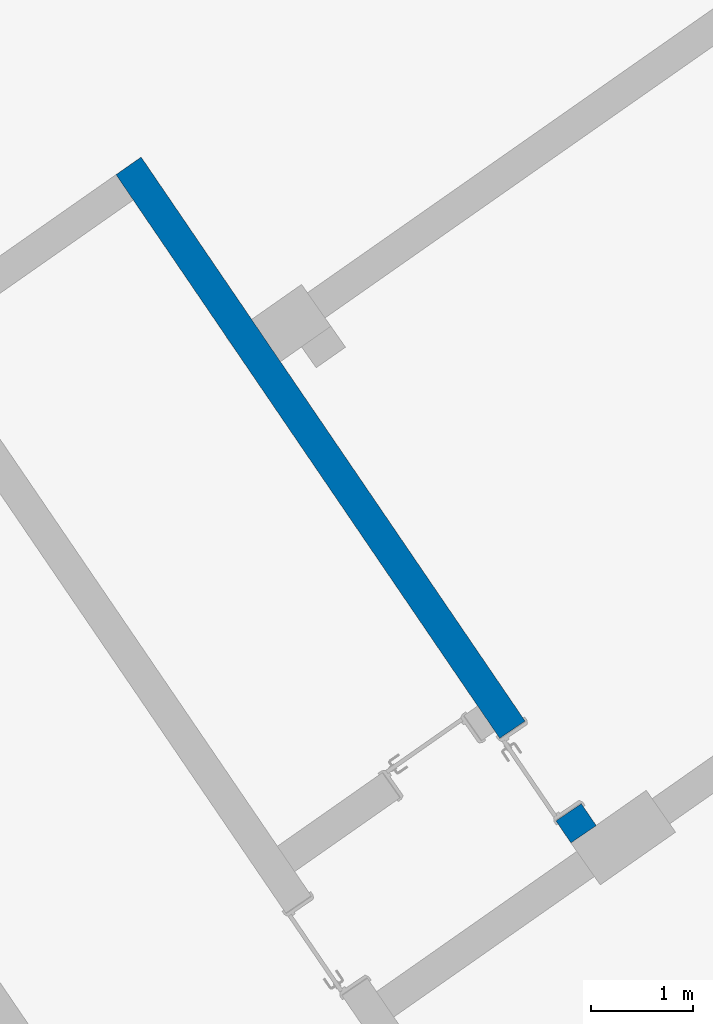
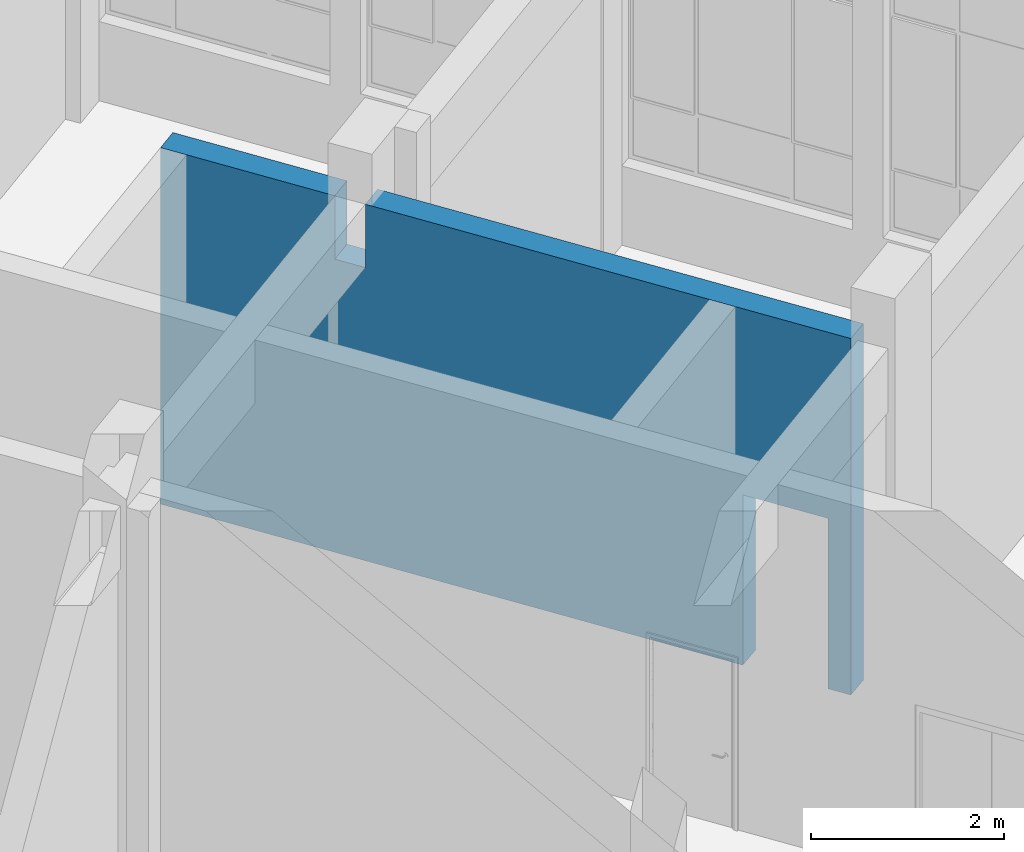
# One storey, part 77 of 157: 1 wall, 1 opening.
"""IFC2X3 building model written with IfcOpenShell, lengths in millimetres."""

from ifc_helpers import new_model, entity, si_unit, converted_unit, derived_unit, direction, frame, frame_2d, origin, place, context, subcontext, project, spatial, polyline, rectangle, outline, extrude, clip, bounded_halfspace, material, layer, layer_set, layer_usage, type_object, element, save


model = new_model("IFC2X3")

# Units and contexts
model_context = context("Model", 3, precision=0.01, world=origin(), true_north=direction((6.123031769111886e-17, 1.0)))
body_context = subcontext(model_context, "Body", "Model", "MODEL_VIEW")
ifc_project = project(units=[si_unit("LENGTHUNIT", "METRE", prefix="MILLI"), si_unit("AREAUNIT", "SQUARE_METRE"), si_unit("VOLUMEUNIT", "CUBIC_METRE"), converted_unit("PLANEANGLEUNIT", "DEGREE", entity("IfcRatioMeasure", 0.017453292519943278), si_unit("PLANEANGLEUNIT", "RADIAN"), dimensions=[0, 0, 0, 0, 0, 0, 0]), si_unit("MASSUNIT", "GRAM", prefix="KILO"), derived_unit("MASSDENSITYUNIT", [(si_unit("MASSUNIT", "GRAM", prefix="KILO"), 1), (si_unit("LENGTHUNIT", "METRE"), -3)]), derived_unit("MOMENTOFINERTIAUNIT", [(si_unit("LENGTHUNIT", "METRE"), 4)]), si_unit("TIMEUNIT", "SECOND"), si_unit("FREQUENCYUNIT", "HERTZ"), si_unit("THERMODYNAMICTEMPERATUREUNIT", "DEGREE_CELSIUS"), derived_unit("THERMALTRANSMITTANCEUNIT", [(si_unit("MASSUNIT", "GRAM", prefix="KILO"), 1), (si_unit("THERMODYNAMICTEMPERATUREUNIT", "KELVIN"), -1), (si_unit("TIMEUNIT", "SECOND"), -3)]), derived_unit("THERMALCONDUCTANCEUNIT", [(si_unit("MASSUNIT", "GRAM", prefix="KILO"), 1), (si_unit("LENGTHUNIT", "METRE"), 1), (si_unit("THERMODYNAMICTEMPERATUREUNIT", "KELVIN"), -1), (si_unit("TIMEUNIT", "SECOND"), -3)]), derived_unit("VOLUMETRICFLOWRATEUNIT", [(si_unit("LENGTHUNIT", "METRE"), 3), (si_unit("TIMEUNIT", "SECOND"), -1)]), derived_unit("MASSFLOWRATEUNIT", [(si_unit("MASSUNIT", "GRAM", prefix="KILO"), 1), (si_unit("TIMEUNIT", "SECOND"), -1)]), derived_unit("ROTATIONALFREQUENCYUNIT", [(si_unit("TIMEUNIT", "SECOND"), -1)]), si_unit("ELECTRICCURRENTUNIT", "AMPERE"), si_unit("ELECTRICVOLTAGEUNIT", "VOLT"), si_unit("POWERUNIT", "WATT"), converted_unit("FORCEUNIT", "KIP", entity("IfcRatioMeasure", 2.088543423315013e-05), si_unit("FORCEUNIT", "NEWTON"), dimensions=[1, 1, -2, 0, 0, 0, 0]), si_unit("ILLUMINANCEUNIT", "LUX"), si_unit("LUMINOUSFLUXUNIT", "LUMEN"), si_unit("LUMINOUSINTENSITYUNIT", "CANDELA"), derived_unit("USERDEFINED", [(si_unit("MASSUNIT", "GRAM", prefix="KILO"), -1), (si_unit("LENGTHUNIT", "METRE"), -2), (si_unit("TIMEUNIT", "SECOND"), 3), (si_unit("LUMINOUSFLUXUNIT", "LUMEN"), 1)]), derived_unit("USERDEFINED", [(si_unit("MASSUNIT", "GRAM", prefix="KILO"), 1), (si_unit("LENGTHUNIT", "METRE"), 3), (si_unit("TIMEUNIT", "SECOND"), -3), (si_unit("ELECTRICCURRENTUNIT", "AMPERE"), -2)]), derived_unit("USERDEFINED", [(si_unit("LENGTHUNIT", "METRE"), 2), (si_unit("TIMEUNIT", "SECOND"), -2)]), derived_unit("SOUNDPOWERUNIT", [(si_unit("MASSUNIT", "GRAM", prefix="KILO"), 1), (si_unit("LENGTHUNIT", "METRE"), 2), (si_unit("TIMEUNIT", "SECOND"), -3)]), derived_unit("SOUNDPRESSUREUNIT", [(si_unit("MASSUNIT", "GRAM", prefix="KILO"), 1), (si_unit("LENGTHUNIT", "METRE"), -1), (si_unit("TIMEUNIT", "SECOND"), -2)]), derived_unit("LINEARVELOCITYUNIT", [(si_unit("LENGTHUNIT", "METRE"), 1), (si_unit("TIMEUNIT", "SECOND"), -1)]), si_unit("PRESSUREUNIT", "PASCAL"), derived_unit("USERDEFINED", [(si_unit("LENGTHUNIT", "METRE"), -2), (si_unit("MASSUNIT", "GRAM", prefix="KILO"), 1), (si_unit("TIMEUNIT", "SECOND"), -2)]), derived_unit("LINEARFORCEUNIT", [(si_unit("MASSUNIT", "GRAM", prefix="KILO"), 1), (si_unit("LENGTHUNIT", "METRE"), 1), (si_unit("TIMEUNIT", "SECOND"), -2), (si_unit("LENGTHUNIT", "METRE"), -1)]), derived_unit("PLANARFORCEUNIT", [(si_unit("MASSUNIT", "GRAM", prefix="KILO"), 1), (si_unit("LENGTHUNIT", "METRE"), 1), (si_unit("TIMEUNIT", "SECOND"), -2), (si_unit("LENGTHUNIT", "METRE"), -2)]), derived_unit("SPECIFICHEATCAPACITYUNIT", [(si_unit("LENGTHUNIT", "METRE"), 2), (si_unit("TIMEUNIT", "SECOND"), -2), (si_unit("THERMODYNAMICTEMPERATUREUNIT", "KELVIN"), -1)]), derived_unit("VAPORPERMEABILITYUNIT", [(si_unit("TIMEUNIT", "SECOND"), 1), (si_unit("LENGTHUNIT", "METRE"), -1)]), derived_unit("DYNAMICVISCOSITYUNIT", [(si_unit("MASSUNIT", "GRAM", prefix="KILO"), 1), (si_unit("LENGTHUNIT", "METRE"), -1), (si_unit("TIMEUNIT", "SECOND"), -1)]), derived_unit("THERMALEXPANSIONCOEFFICIENTUNIT", [(si_unit("THERMODYNAMICTEMPERATUREUNIT", "KELVIN"), -1)])], contexts=[model_context])

# Site, building, storey
site_placement = place(None, frame((0.0, 0.0, 0.0), z_axis=(0.0, 0.0, 1.0), x_axis=(0.8191520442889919, 0.5735764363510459, 0.0)))
site = spatial("IfcSite", under=ifc_project, at=site_placement, Name="Default", CompositionType="ELEMENT")
building_placement = place(site_placement, origin())
building = spatial("IfcBuilding", under=site, at=building_placement, CompositionType="ELEMENT")
storey_placement = place(building_placement, origin())
storey = spatial("IfcBuildingStorey", under=building, at=storey_placement, Name="1.EG +0.00", CompositionType="ELEMENT", Elevation=-4.331468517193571e-12)

# Wall, opening
ifc_material = material(Name="Analytical Wall Surface_CJC")
ifc_layer = layer(ifc_material, 300.0)
ifc_layer_set = layer_set([ifc_layer], Name="Basic Wall:Wand_Innen_30")
ifc_layer_usage = layer_usage(ifc_layer_set, "AXIS2", "NEGATIVE", 150.0)
wall_type = type_object("IfcWallType", Name="Basic Wall:Wand_Innen_30", PredefinedType="STANDARD", material=ifc_layer_set)
wall_placement = place(storey_placement, frame((-211069.5341896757, 127946.35891435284, 0.0), z_axis=(0.0, 0.0, 1.0), x_axis=(0.013142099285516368, 0.9999136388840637, 0.0)))
wall = element("IfcWallStandardCase", 1, at=wall_placement, inside=storey, type_object=wall_type, material=ifc_layer_usage, Name="Basic Wall:Wand_Innen_30", ObjectType="Basic Wall:Wand_Innen_30", context=body_context, shape_type="Clipping", body=[
    clip(extrude(outline(polyline([(0.0, -150.0), (7927.655956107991, -150.0), (7923.71298580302, 150.0), (0.0, 150.0), (0.0, -150.0)])), origin(), (0.0, 0.0, 1.0), 4500.000000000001), bounded_halfspace(frame((5927.4832189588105, -150.0, 3700.0), z_axis=(0.0, 0.0, -1.0), x_axis=(-0.9999136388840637, -0.013142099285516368, 0.0)), True, frame((5927.4832189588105, -150.0, 3700.0), z_axis=(0.0, 0.0, -1.0), x_axis=(-0.9999136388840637, -0.013142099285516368, 0.0)), polyline([(0.0, 0.0), (350.0, 4.6001320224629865), (350.0, 304.62604259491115), (112.37669765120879, 301.50290384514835), (0.0, 300.02591057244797), (0.0, 0.0)]))),
])
opening_placement = place(wall_placement, frame((260.0, -150.0, 0.0)))
element("IfcOpeningElement", 2, at=opening_placement, cuts=wall, Name="Doors_IntSgl:90x210:1", ObjectType="Opening", context=body_context, shape_type="SweptSolid", body=[
    extrude(rectangle(XDim=2150.000000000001, YDim=979.9999999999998, at=frame_2d((1075.0000000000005, 490.0000000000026), x_axis=(1.0, 0.0))), frame((0.0, 0.0, 0.0), z_axis=(0.0, 1.0, 0.0), x_axis=(0.0, 0.0, 1.0)), (0.0, 0.0, 1.0), 299.9999999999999),
])

save(model, "model.ifc")
